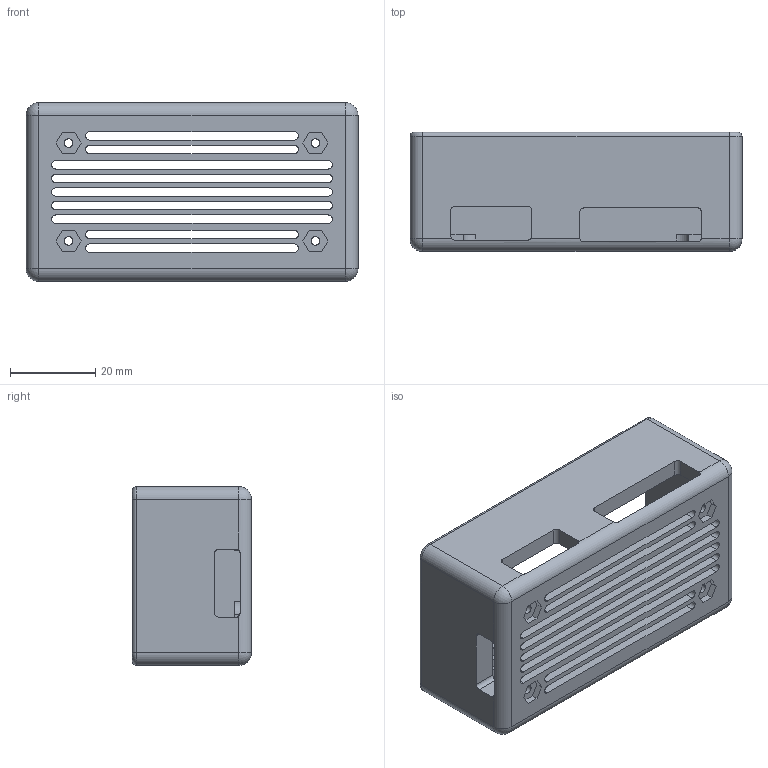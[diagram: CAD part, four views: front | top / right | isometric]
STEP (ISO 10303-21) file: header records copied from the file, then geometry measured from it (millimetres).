
FILE_DESCRIPTION((''),'2;1');
FILE_NAME('OBUDOWA_LM','2019-10-21T20:23:21',('Agnieszka'),(''),'CREO PARAMETRIC BY PTC INC, 2019010','CREO PARAMETRIC BY PTC INC, 2019010','');
FILE_SCHEMA(('CONFIG_CONTROL_DESIGN'));
Length unit declared in the file: millimetre
Products named in the file (1): OBUDOWA_LM
Bounding box: 78 x 28 x 42 mm (x, y, z)
Volume: 25045.2 mm3; surface area: 18705.8 mm2
Topology: 1 solids, 1 shells, 190 faces, 524 edges, 340 vertices
Faces by surface type: plane 101, cylinder 81, torus 4, sphere 4
Entity records: 6186 total; most frequent: CARTESIAN_POINT 1086, DIRECTION 1066, ORIENTED_EDGE 1048, EDGE_CURVE 524, AXIS2_PLACEMENT_3D 358, VECTOR 350, LINE 350, VERTEX_POINT 340
